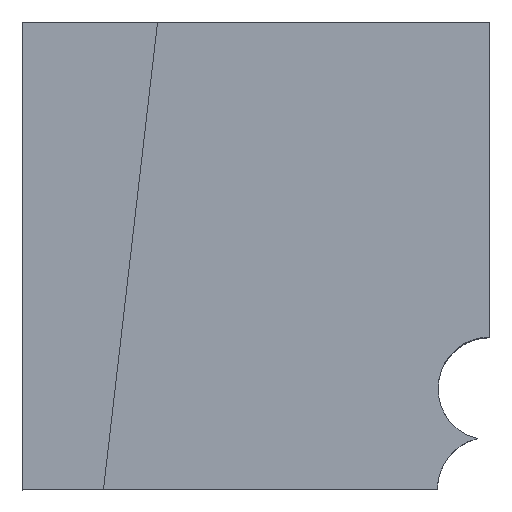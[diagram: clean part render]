
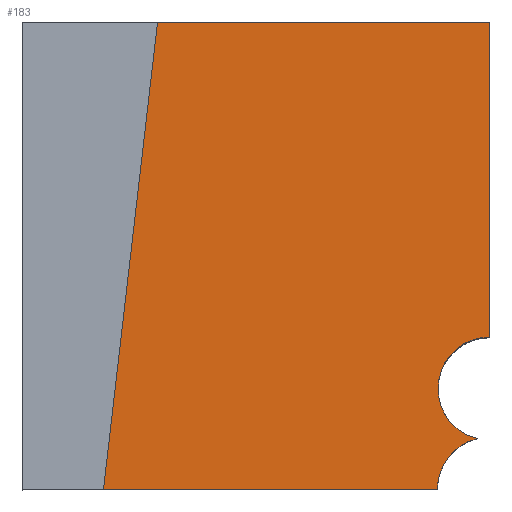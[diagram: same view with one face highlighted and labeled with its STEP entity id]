
A CAD part, top view. The second image highlights one B-rep face of the part: STEP entity #183.
In plain terms, the highlighted planar face has unit normal (0, 0, 1).
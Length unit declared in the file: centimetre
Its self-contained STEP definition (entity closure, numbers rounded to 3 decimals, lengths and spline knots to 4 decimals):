
#29 = DIRECTION ( 'NONE',  ( 0.115, 0.993, 0. ) ) ;
#46 = VECTOR ( 'NONE', #29, 100. ) ;
#58 = VERTEX_POINT ( 'NONE', #312 ) ;
#74 = ORIENTED_EDGE ( 'NONE', *, *, #744, .F. ) ;
#98 = DIRECTION ( 'NONE',  ( -1., 0., 0. ) ) ;
#110 = EDGE_CURVE ( 'NONE', #282, #213, #569, .T. ) ;
#112 = DIRECTION ( 'NONE',  ( 0., 0., 1. ) ) ;
#134 = DIRECTION ( 'NONE',  ( 1., 0., 0. ) ) ;
#167 = VERTEX_POINT ( 'NONE', #817 ) ;
#183 = ADVANCED_FACE ( 'NONE', ( #714 ), #700, .T. ) ;
#185 = VERTEX_POINT ( 'NONE', #1053 ) ;
#202 = CARTESIAN_POINT ( 'NONE',  ( 1000., 215.5588, 1000. ) ) ;
#211 = ORIENTED_EDGE ( 'NONE', *, *, #230, .T. ) ;
#213 = VERTEX_POINT ( 'NONE', #336 ) ;
#223 = CARTESIAN_POINT ( 'NONE',  ( 0., 0., 1000. ) ) ;
#224 = AXIS2_PLACEMENT_3D ( 'NONE', #202, #315, #1136 ) ;
#230 = EDGE_CURVE ( 'NONE', #167, #1151, #1089, .T. ) ;
#251 = DIRECTION ( 'NONE',  ( 1., 0., 0. ) ) ;
#256 = CARTESIAN_POINT ( 'NONE',  ( 0., 0., 1000. ) ) ;
#262 = EDGE_CURVE ( 'NONE', #639, #282, #264, .T. ) ;
#264 = CIRCLE ( 'NONE', #362, 110.3923 ) ;
#282 = VERTEX_POINT ( 'NONE', #1207 ) ;
#306 = CARTESIAN_POINT ( 'NONE',  ( 888.2334, 0., 1000. ) ) ;
#312 = CARTESIAN_POINT ( 'NONE',  ( 289.2797, 1000., 1000. ) ) ;
#315 = DIRECTION ( 'NONE',  ( 0., 0., -1. ) ) ;
#336 = CARTESIAN_POINT ( 'NONE',  ( 1000., 1000., 1000. ) ) ;
#362 = AXIS2_PLACEMENT_3D ( 'NONE', #377, #727, #1073 ) ;
#363 = CIRCLE ( 'NONE', #834, 111.7666 ) ;
#377 = CARTESIAN_POINT ( 'NONE',  ( 1000., 215.5588, 1000. ) ) ;
#437 = VECTOR ( 'NONE', #98, 100. ) ;
#500 = EDGE_CURVE ( 'NONE', #213, #58, #651, .T. ) ;
#555 = ORIENTED_EDGE ( 'NONE', *, *, #1115, .T. ) ;
#569 = LINE ( 'NONE', #1039, #1278 ) ;
#588 = EDGE_CURVE ( 'NONE', #185, #1151, #363, .T. ) ;
#639 = VERTEX_POINT ( 'NONE', #760 ) ;
#651 = LINE ( 'NONE', #1237, #437 ) ;
#700 = PLANE ( 'NONE',  #1077 ) ;
#714 = FACE_OUTER_BOUND ( 'NONE', #992, .T. ) ;
#727 = DIRECTION ( 'NONE',  ( 0., 0., -1. ) ) ;
#744 = EDGE_CURVE ( 'NONE', #167, #58, #833, .T. ) ;
#760 = CARTESIAN_POINT ( 'NONE',  ( 889.6077, 215.5588, 1000. ) ) ;
#798 = CARTESIAN_POINT ( 'NONE',  ( 1000., 0., 1000. ) ) ;
#817 = CARTESIAN_POINT ( 'NONE',  ( 173.5514, 0., 1000. ) ) ;
#833 = LINE ( 'NONE', #1184, #46 ) ;
#834 = AXIS2_PLACEMENT_3D ( 'NONE', #798, #1271, #1043 ) ;
#979 = ORIENTED_EDGE ( 'NONE', *, *, #110, .T. ) ;
#992 = EDGE_LOOP ( 'NONE', ( #74, #211, #1468, #555, #1267, #979, #1284 ) ) ;
#1039 = CARTESIAN_POINT ( 'NONE',  ( 1000., 1000., 1000. ) ) ;
#1043 = DIRECTION ( 'NONE',  ( 1., 0., 0. ) ) ;
#1053 = CARTESIAN_POINT ( 'NONE',  ( 973.1259, 108.4876, 1000. ) ) ;
#1073 = DIRECTION ( 'NONE',  ( -1., 0., 0. ) ) ;
#1077 = AXIS2_PLACEMENT_3D ( 'NONE', #223, #112, #134 ) ;
#1089 = LINE ( 'NONE', #256, #1179 ) ;
#1115 = EDGE_CURVE ( 'NONE', #185, #639, #1161, .T. ) ;
#1136 = DIRECTION ( 'NONE',  ( -1., 0., 0. ) ) ;
#1151 = VERTEX_POINT ( 'NONE', #306 ) ;
#1161 = CIRCLE ( 'NONE', #224, 110.3923 ) ;
#1179 = VECTOR ( 'NONE', #251, 100. ) ;
#1184 = CARTESIAN_POINT ( 'NONE',  ( 289.2797, 1000., 1000. ) ) ;
#1207 = CARTESIAN_POINT ( 'NONE',  ( 1000., 325.9512, 1000. ) ) ;
#1237 = CARTESIAN_POINT ( 'NONE',  ( 0., 1000., 1000. ) ) ;
#1267 = ORIENTED_EDGE ( 'NONE', *, *, #262, .T. ) ;
#1271 = DIRECTION ( 'NONE',  ( 0., 0., 1. ) ) ;
#1278 = VECTOR ( 'NONE', #1418, 100. ) ;
#1284 = ORIENTED_EDGE ( 'NONE', *, *, #500, .T. ) ;
#1418 = DIRECTION ( 'NONE',  ( 0., 1., 0. ) ) ;
#1468 = ORIENTED_EDGE ( 'NONE', *, *, #588, .F. ) ;
